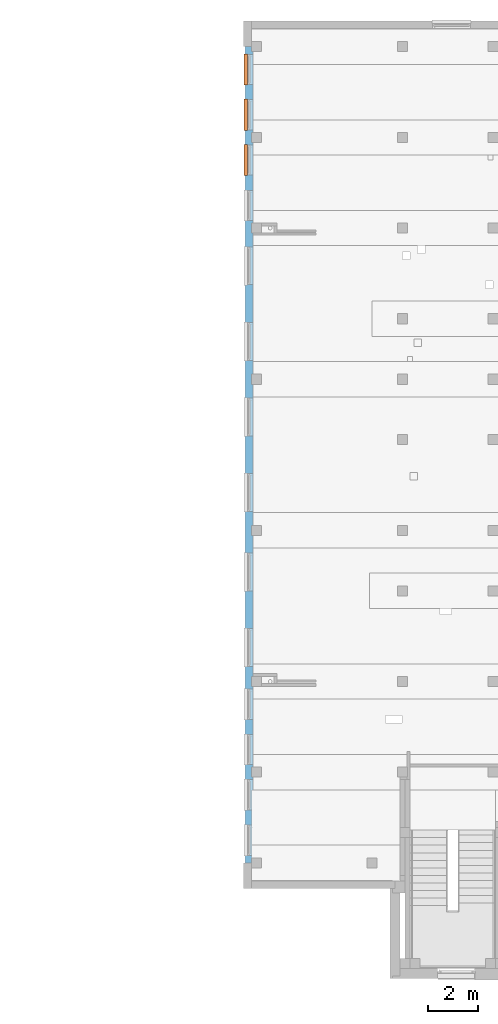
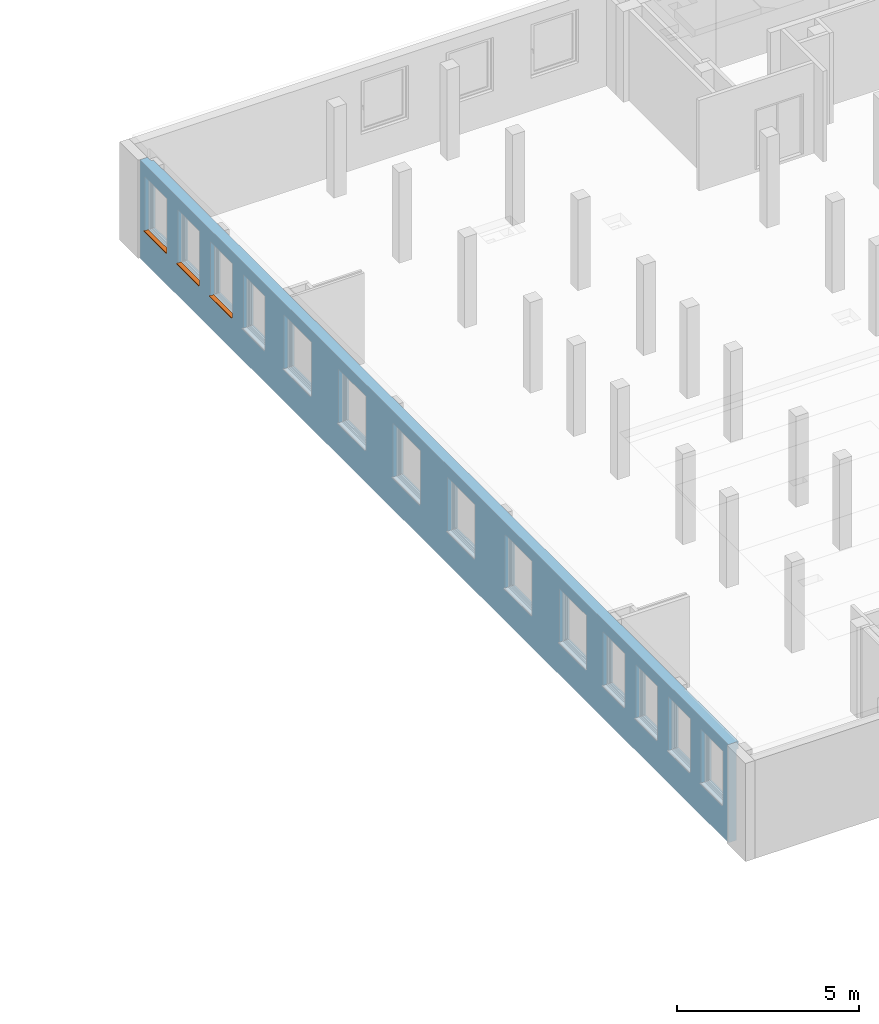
# One storey, part 23 of 27: 3 proxies, 14 openings, plus 1 element that does not belong to this part.
"""IFC4 building model written with IfcOpenShell, lengths in metres."""

from ifc_helpers import new_model, entity, si_unit, converted_unit, derived_unit, frame, origin, origin_with_axes, place, context, subcontext, project, spatial, polyline, outline, extrude, clip, bounded_halfspace, faceted_brep, source, transform, mapped, material, layer, layer_set, layer_usage, element, fill, save


model = new_model("IFC4")

# Units and contexts
model_context = context("Model", 3, precision=1e-05, world=origin())
body_context = subcontext(model_context, "Body", "Model", "MODEL_VIEW")
ifc_project = project(units=[si_unit("LENGTHUNIT", "METRE"), si_unit("AREAUNIT", "SQUARE_METRE"), si_unit("VOLUMEUNIT", "CUBIC_METRE"), si_unit("MASSUNIT", "GRAM", prefix="KILO"), converted_unit("PLANEANGLEUNIT", "DEGREE", entity("IfcPlaneAngleMeasure", 0.0174532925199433), si_unit("PLANEANGLEUNIT", "RADIAN"), dimensions=[0, 0, 0, 0, 0, 0, 0]), derived_unit("THERMALTRANSMITTANCEUNIT", [(si_unit("POWERUNIT", "WATT"), 1), (si_unit("THERMODYNAMICTEMPERATUREUNIT", "KELVIN"), -1), (si_unit("LENGTHUNIT", "METRE"), -2)]), derived_unit("VOLUMETRICFLOWRATEUNIT", [(si_unit("LENGTHUNIT", "METRE"), 3), (converted_unit("TIMEUNIT", "hour", entity("IfcTimeMeasure", 3600.0), si_unit("TIMEUNIT", "SECOND"), dimensions=[0, 0, 1, 0, 0, 0, 0]), -1), (si_unit("LENGTHUNIT", "METRE"), -1)])], contexts=[model_context])

# Site, building, storey
site_placement = place(None, origin())
site = spatial("IfcSite", under=ifc_project, at=site_placement, Name="3. ASŘ", CompositionType="ELEMENT")
building_placement = place(site_placement, origin())
building = spatial("IfcBuilding", under=site, at=building_placement, Name="Pavilon C", CompositionType="ELEMENT")
storey_placement = place(building_placement, frame((0.0, 0.0, 10.5)))
storey = spatial("IfcBuildingStorey", under=building, at=storey_placement, Name="Půdorys 4.NP", CompositionType="ELEMENT", Elevation=10.5)

# Wall, openings, proxies
ifc_material_1 = material(Name="ZELEZOBETONOVÁ KCE")
ifc_layer = layer(ifc_material_1, 0.32)
ifc_layer_set = layer_set([ifc_layer])
ifc_layer_usage = layer_usage(ifc_layer_set, "AXIS2", "POSITIVE", 0.0)
wall_placement = place(storey_placement, frame((24.5, 32.4, -0.1), z_axis=(0.0, 0.0, 1.0), x_axis=(-2.24566593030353e-16, -1.0, 0.0)))
wall = element("IfcWall", 1, at=wall_placement, inside=storey, material=ifc_layer_usage, Name="ZELEZOBETONOVÁ KCE", context=body_context, shape_type="Clipping", body=[
    clip(clip(clip(clip(clip(clip(clip(extrude(outline(polyline([(-32.4, 0.0), (-7.18613097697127e-17, -1.61376495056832e-32), (-7.18613097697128e-17, 0.32), (-32.2, 0.32), (-32.2, 0.25), (-32.4, 0.25), (-32.4, 0.0)])), frame((32.4, 0.0, 0.0), z_axis=(0.0, 0.0, 1.0), x_axis=(1.0, 0.0, 0.0)), (0.0, 0.0, 1.0), 3.3), bounded_halfspace(frame((13.2, 0.284999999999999, 3.05), z_axis=(0.0, 0.0, 1.0), x_axis=(2.24566593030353e-16, -1.0, 0.0)), True, origin_with_axes(), polyline([(13.0, 0.319999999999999), (13.0, 0.250000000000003), (13.4, 0.250000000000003), (13.4, 0.319999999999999), (13.0, 0.319999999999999)]))), bounded_halfspace(frame((25.2, 0.284999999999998, 3.05), z_axis=(0.0, 0.0, 1.0), x_axis=(2.24566593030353e-16, -1.0, 0.0)), True, origin_with_axes(), polyline([(25.0, 0.319999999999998), (25.0, 0.249999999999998), (25.4, 0.249999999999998), (25.4, 0.319999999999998), (25.0, 0.319999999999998)]))), bounded_halfspace(frame((28.8, 0.284999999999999, 3.05), z_axis=(0.0, 0.0, 1.0), x_axis=(2.24566593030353e-16, -1.0, 0.0)), True, origin_with_axes(), polyline([(28.6, 0.319999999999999), (28.6, 0.249999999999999), (29.0, 0.249999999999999), (29.0, 0.319999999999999), (28.6, 0.319999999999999)]))), bounded_halfspace(frame((19.2, 0.285000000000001, 3.05), z_axis=(0.0, 0.0, 1.0), x_axis=(2.24566593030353e-16, -1.0, 0.0)), True, origin_with_axes(), polyline([(19.0, 0.320000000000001), (19.0, 0.249999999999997), (19.4, 0.249999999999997), (19.4, 0.320000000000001), (19.0, 0.320000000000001)]))), bounded_halfspace(frame((7.2, 0.285000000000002, 3.05), z_axis=(0.0, 0.0, 1.0), x_axis=(2.24566593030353e-16, -1.0, 0.0)), True, origin_with_axes(), polyline([(7.0, 0.320000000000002), (7.0, 0.250000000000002), (7.4, 0.250000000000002), (7.4, 0.320000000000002), (7.0, 0.320000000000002)]))), bounded_halfspace(frame((32.3, 0.285, 3.05), z_axis=(0.0, 0.0, 1.0), x_axis=(2.24566593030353e-16, -1.0, 0.0)), True, origin_with_axes(), polyline([(32.2, 0.32), (32.2, 0.25), (32.4, 0.25), (32.4, 0.32), (32.2, 0.32)]))), bounded_halfspace(frame((3.6, 0.284999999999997, 3.05), z_axis=(0.0, 0.0, 1.0), x_axis=(2.24566593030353e-16, -1.0, 0.0)), True, origin_with_axes(), polyline([(3.4, 0.320000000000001), (3.4, 0.249999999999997), (3.8, 0.249999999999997), (3.8, 0.320000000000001), (3.4, 0.320000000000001)]))),
])
opening_1_placement = place(wall_placement, frame((30.9, -3.36849889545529e-16, 1.1), z_axis=(0.0, 1.0, 0.0), x_axis=(0.0, 0.0, 1.0)))
element("IfcOpeningElement", 2, at=opening_1_placement, cuts=wall, Name="Okenní otvor", ObjectType="Opening", context=body_context, shape_type="SweptSolid", body=[
    extrude(outline(polyline([(0.0, 1.2), (1.8, 1.2), (1.8, 0.0), (0.0, 0.0), (0.0, 1.2)])), origin_with_axes(), (0.0, 0.0, 1.0), 0.32),
])
opening_2_placement = place(wall_placement, frame((29.1, -7.41069757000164e-16, 1.1), z_axis=(0.0, 1.0, 0.0), x_axis=(0.0, 0.0, 1.0)))
element("IfcOpeningElement", 3, at=opening_2_placement, cuts=wall, Name="Okenní otvor", ObjectType="Opening", context=body_context, shape_type="SweptSolid", body=[
    extrude(outline(polyline([(0.0, 1.2), (1.8, 1.2), (1.8, 0.0), (0.0, 0.0), (0.0, 1.2)])), origin_with_axes(), (0.0, 0.0, 1.0), 0.32),
])
opening_3_placement = place(wall_placement, frame((27.3, -1.1452896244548e-15, 1.1), z_axis=(0.0, 1.0, 0.0), x_axis=(0.0, 0.0, 1.0)))
element("IfcOpeningElement", 4, at=opening_3_placement, cuts=wall, Name="Okenní otvor", ObjectType="Opening", context=body_context, shape_type="SweptSolid", body=[
    extrude(outline(polyline([(0.0, 1.2), (1.8, 1.2), (1.8, 0.0), (0.0, 0.0), (0.0, 1.2)])), origin_with_axes(), (0.0, 0.0, 1.0), 0.32),
])
opening_4_placement = place(wall_placement, frame((25.5, -1.54950949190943e-15, 1.1), z_axis=(0.0, 1.0, 0.0), x_axis=(0.0, 0.0, 1.0)))
element("IfcOpeningElement", 5, at=opening_4_placement, cuts=wall, Name="Okenní otvor", ObjectType="Opening", context=body_context, shape_type="SweptSolid", body=[
    extrude(outline(polyline([(0.0, 1.2), (1.8, 1.2), (1.8, 0.0), (0.0, 0.0), (0.0, 1.2)])), origin_with_axes(), (0.0, 0.0, 1.0), 0.32),
])
opening_5_placement = place(wall_placement, frame((23.1, -2.08846931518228e-15, 1.1), z_axis=(0.0, 1.0, 0.0), x_axis=(0.0, 0.0, 1.0)))
element("IfcOpeningElement", 6, at=opening_5_placement, cuts=wall, Name="Okenní otvor", ObjectType="Opening", context=body_context, shape_type="SweptSolid", body=[
    extrude(outline(polyline([(0.0, 1.5), (1.8, 1.5), (1.8, 0.0), (0.0, 0.0), (0.0, 1.5)])), origin_with_axes(), (0.0, 0.0, 1.0), 0.320000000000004),
])
opening_6_placement = place(wall_placement, frame((20.1, 8.75809712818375e-16, 1.1), z_axis=(0.0, 1.0, 0.0), x_axis=(0.0, 0.0, 1.0)))
element("IfcOpeningElement", 7, at=opening_6_placement, cuts=wall, Name="Okenní otvor", ObjectType="Opening", context=body_context, shape_type="SweptSolid", body=[
    extrude(outline(polyline([(0.0, 1.5), (1.8, 1.5), (1.8, 0.0), (0.0, 0.0), (0.0, 1.5)])), origin_with_axes(), (0.0, 0.0, 1.0), 0.32),
])
opening_7_placement = place(wall_placement, frame((16.95, 1.68424944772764e-16, 1.1), z_axis=(0.0, 1.0, 0.0), x_axis=(0.0, 0.0, 1.0)))
element("IfcOpeningElement", 8, at=opening_7_placement, cuts=wall, Name="Okenní otvor", ObjectType="Opening", context=body_context, shape_type="SweptSolid", body=[
    extrude(outline(polyline([(0.0, 1.5), (1.8, 1.5), (1.8, 0.0), (0.0, 0.0), (0.0, 1.5)])), origin_with_axes(), (0.0, 0.0, 1.0), 0.32),
])
opening_8_placement = place(wall_placement, frame((13.95, -5.05274834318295e-16, 1.1), z_axis=(0.0, 1.0, 0.0), x_axis=(0.0, 0.0, 1.0)))
element("IfcOpeningElement", 9, at=opening_8_placement, cuts=wall, Name="Okenní otvor", ObjectType="Opening", context=body_context, shape_type="SweptSolid", body=[
    extrude(outline(polyline([(0.0, 1.5), (1.8, 1.5), (1.8, 0.0), (0.0, 0.0), (0.0, 1.5)])), origin_with_axes(), (0.0, 0.0, 1.0), 0.32),
])
opening_9_placement = place(wall_placement, frame((10.95, -1.17897461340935e-15, 1.1), z_axis=(0.0, 1.0, 0.0), x_axis=(0.0, 0.0, 1.0)))
element("IfcOpeningElement", 10, at=opening_9_placement, cuts=wall, Name="Okenní otvor", ObjectType="Opening", context=body_context, shape_type="SweptSolid", body=[
    extrude(outline(polyline([(0.0, 1.5), (1.8, 1.5), (1.8, 0.0), (0.0, 0.0), (0.0, 1.5)])), origin_with_axes(), (0.0, 0.0, 1.0), 0.32),
])
opening_10_placement = place(wall_placement, frame((7.95, -1.85267439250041e-15, 1.1), z_axis=(0.0, 1.0, 0.0), x_axis=(0.0, 0.0, 1.0)))
element("IfcOpeningElement", 11, at=opening_10_placement, cuts=wall, Name="Okenní otvor", ObjectType="Opening", context=body_context, shape_type="SweptSolid", body=[
    extrude(outline(polyline([(0.0, 1.5), (1.8, 1.5), (1.8, 0.0), (0.0, 0.0), (0.0, 1.5)])), origin_with_axes(), (0.0, 0.0, 1.0), 0.320000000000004),
])
opening_11_placement = place(wall_placement, frame((5.7, 1.28002958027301e-15, 1.1), z_axis=(0.0, 1.0, 0.0), x_axis=(0.0, 0.0, 1.0)))
element("IfcOpeningElement", 12, at=opening_11_placement, cuts=wall, Name="Okenní otvor", ObjectType="Opening", context=body_context, shape_type="SweptSolid", body=[
    extrude(outline(polyline([(0.0, 1.2), (1.8, 1.2), (1.8, 0.0), (0.0, 0.0), (0.0, 1.2)])), origin_with_axes(), (0.0, 0.0, 1.0), 0.32),
])
opening_12_placement = place(wall_placement, frame((3.90000000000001, 8.75809712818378e-16, 1.1), z_axis=(0.0, 1.0, 0.0), x_axis=(0.0, 0.0, 1.0)))
opening_12 = element("IfcOpeningElement", 13, at=opening_12_placement, cuts=wall, Name="Okenní otvor", ObjectType="Opening", context=body_context, shape_type="SweptSolid", body=[
    extrude(outline(polyline([(0.0, 1.2), (1.8, 1.2), (1.8, 0.0), (0.0, 0.0), (0.0, 1.2)])), origin_with_axes(), (0.0, 0.0, 1.0), 0.32),
])
opening_13_placement = place(wall_placement, frame((2.10000000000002, 4.71589845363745e-16, 1.1), z_axis=(0.0, 1.0, 0.0), x_axis=(0.0, 0.0, 1.0)))
opening_13 = element("IfcOpeningElement", 14, at=opening_13_placement, cuts=wall, Name="Okenní otvor", ObjectType="Opening", context=body_context, shape_type="SweptSolid", body=[
    extrude(outline(polyline([(0.0, 1.2), (1.8, 1.2), (1.8, 0.0), (0.0, 0.0), (0.0, 1.2)])), origin_with_axes(), (0.0, 0.0, 1.0), 0.32),
])
opening_14_placement = place(wall_placement, frame((0.300000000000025, 6.73699779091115e-17, 1.1), z_axis=(-1.77635683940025e-16, 1.0, 0.0), x_axis=(0.0, 0.0, 1.0)))
opening_14 = element("IfcOpeningElement", 15, at=opening_14_placement, cuts=wall, Name="Okenní otvor", ObjectType="Opening", context=body_context, shape_type="SweptSolid", body=[
    extrude(outline(polyline([(0.0, 1.2), (1.8, 1.2), (1.8, 0.0), (0.0, 0.0), (0.0, 1.2)])), origin_with_axes(), (0.0, 0.0, 1.0), 0.32),
])
ifc_material_2 = material(Name="PLECH")
shared_shape_1 = source(origin_with_axes(), body_context, "Body", "Brep", [
    faceted_brep([(7.27595761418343e-15, -7.27595761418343e-15, 0.0), (7.27595761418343e-15, 0.0999999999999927, 0.0), (7.27595761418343e-15, 0.0999999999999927, 0.005), (7.27595761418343e-15, -7.27595761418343e-15, 0.005), (1.20000000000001, -7.27595761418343e-15, 0.0), (1.20000000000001, -7.27595761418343e-15, 0.005), (1.20000000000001, 0.0999999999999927, 0.005), (1.20000000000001, 0.0999999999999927, 0.0), (-0.0199999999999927, -7.27595761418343e-15, 0.0), (-0.0199999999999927, -0.0350000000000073, 0.0), (1.22000000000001, -0.0350000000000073, 0.0), (1.22000000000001, -7.27595761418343e-15, 0.0), (1.22000000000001, -7.27595761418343e-15, 0.005), (1.22000000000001, -0.0400000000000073, 0.005), (-0.0199999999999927, -0.0400000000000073, 0.005), (-0.0199999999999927, -7.27595761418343e-15, 0.005), (-0.0199999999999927, -0.0400000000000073, -0.025), (-0.0199999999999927, -0.0350000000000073, -0.025), (1.22000000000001, -0.0350000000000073, -0.025), (1.22000000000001, -0.0400000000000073, -0.025)], [[[0, 1, 2, 3]], [[4, 5, 6, 7]], [[1, 0, 8, 9, 10, 11, 4, 7]], [[2, 1, 7, 6]], [[3, 2, 6, 5, 12, 13, 14, 15]], [[8, 15, 14, 16, 17, 9]], [[11, 10, 18, 19, 13, 12]], [[15, 8, 0, 3]], [[5, 4, 11, 12]], [[16, 14, 13, 19]], [[17, 16, 19, 18]], [[9, 17, 18, 10]]], orient=[[False], [False], [False], [False], [False], [False], [False], [False], [False], [False], [False], [False]]),
    faceted_brep([(-0.0199999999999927, -7.27595761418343e-15, 0.0), (-0.0199999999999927, 0.0999999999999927, 0.0), (-0.0199999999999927, 0.0999999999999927, 0.005), (-0.0199999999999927, -7.27595761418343e-15, 0.005), (7.27595761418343e-15, -7.27595761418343e-15, 0.0), (7.27595761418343e-15, -7.27595761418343e-15, 0.005), (7.27595761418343e-15, 0.0999999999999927, 0.005), (7.27595761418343e-15, 0.0999999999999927, 0.0)], [[[0, 1, 2, 3]], [[4, 5, 6, 7]], [[1, 0, 4, 7]], [[2, 1, 7, 6]], [[3, 2, 6, 5]], [[0, 3, 5, 4]]], orient=[[False], [False], [False], [False], [False], [False]]),
    faceted_brep([(1.20000000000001, -7.27595761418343e-15, 0.0), (1.20000000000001, 0.0999999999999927, 0.0), (1.20000000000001, 0.0999999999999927, 0.005), (1.20000000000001, -7.27595761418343e-15, 0.005), (1.22000000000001, -7.27595761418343e-15, 0.0), (1.22000000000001, -7.27595761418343e-15, 0.005), (1.22000000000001, 0.0999999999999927, 0.005), (1.22000000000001, 0.0999999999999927, 0.0)], [[[0, 1, 2, 3]], [[4, 5, 6, 7]], [[1, 0, 4, 7]], [[2, 1, 7, 6]], [[3, 2, 6, 5]], [[0, 3, 5, 4]]], orient=[[False], [False], [False], [False], [False], [False]]),
])
proxy_1_placement = place(opening_12_placement, frame((0.0, 0.0, 0.0), z_axis=(1.0, 0.0, 0.0), x_axis=(0.0, 1.0, 0.0)))
proxy_1 = element("IfcBuildingElementProxy", 16, at=proxy_1_placement, inside=storey, material=ifc_material_2, Name="Parapet vnější", context=body_context, shape_type="MappedRepresentation", body=[
    mapped(shared_shape_1, transform((0.0, 0.0, 0.0), x_axis=(1.0, 0.0, 0.0), y_axis=(0.0, 1.0, 0.0), z_axis=(0.0, 0.0, 1.0), scale=1.0)),
])
fill(opening_12, proxy_1)
ifc_material_3 = material(Name="PLECH")
shared_shape_2 = source(origin_with_axes(), body_context, "Body", "Brep", [
    faceted_brep([(7.27595761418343e-15, -7.27595761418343e-15, 0.0), (7.27595761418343e-15, 0.0999999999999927, 0.0), (7.27595761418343e-15, 0.0999999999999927, 0.005), (7.27595761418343e-15, -7.27595761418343e-15, 0.005), (1.20000000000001, -7.27595761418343e-15, 0.0), (1.20000000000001, -7.27595761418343e-15, 0.005), (1.20000000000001, 0.0999999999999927, 0.005), (1.20000000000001, 0.0999999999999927, 0.0), (-0.0199999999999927, -7.27595761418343e-15, 0.0), (-0.0199999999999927, -0.0350000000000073, 0.0), (1.22000000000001, -0.0350000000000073, 0.0), (1.22000000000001, -7.27595761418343e-15, 0.0), (1.22000000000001, -7.27595761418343e-15, 0.005), (1.22000000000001, -0.0400000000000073, 0.005), (-0.0199999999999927, -0.0400000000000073, 0.005), (-0.0199999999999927, -7.27595761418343e-15, 0.005), (-0.0199999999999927, -0.0400000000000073, -0.025), (-0.0199999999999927, -0.0350000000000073, -0.025), (1.22000000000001, -0.0350000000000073, -0.025), (1.22000000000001, -0.0400000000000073, -0.025)], [[[0, 1, 2, 3]], [[4, 5, 6, 7]], [[1, 0, 8, 9, 10, 11, 4, 7]], [[2, 1, 7, 6]], [[3, 2, 6, 5, 12, 13, 14, 15]], [[8, 15, 14, 16, 17, 9]], [[11, 10, 18, 19, 13, 12]], [[15, 8, 0, 3]], [[5, 4, 11, 12]], [[16, 14, 13, 19]], [[17, 16, 19, 18]], [[9, 17, 18, 10]]], orient=[[False], [False], [False], [False], [False], [False], [False], [False], [False], [False], [False], [False]]),
    faceted_brep([(-0.0199999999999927, -7.27595761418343e-15, 0.0), (-0.0199999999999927, 0.0999999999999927, 0.0), (-0.0199999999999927, 0.0999999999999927, 0.005), (-0.0199999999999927, -7.27595761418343e-15, 0.005), (7.27595761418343e-15, -7.27595761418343e-15, 0.0), (7.27595761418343e-15, -7.27595761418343e-15, 0.005), (7.27595761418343e-15, 0.0999999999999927, 0.005), (7.27595761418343e-15, 0.0999999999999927, 0.0)], [[[0, 1, 2, 3]], [[4, 5, 6, 7]], [[1, 0, 4, 7]], [[2, 1, 7, 6]], [[3, 2, 6, 5]], [[0, 3, 5, 4]]], orient=[[False], [False], [False], [False], [False], [False]]),
    faceted_brep([(1.20000000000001, -7.27595761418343e-15, 0.0), (1.20000000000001, 0.0999999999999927, 0.0), (1.20000000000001, 0.0999999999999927, 0.005), (1.20000000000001, -7.27595761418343e-15, 0.005), (1.22000000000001, -7.27595761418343e-15, 0.0), (1.22000000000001, -7.27595761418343e-15, 0.005), (1.22000000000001, 0.0999999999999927, 0.005), (1.22000000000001, 0.0999999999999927, 0.0)], [[[0, 1, 2, 3]], [[4, 5, 6, 7]], [[1, 0, 4, 7]], [[2, 1, 7, 6]], [[3, 2, 6, 5]], [[0, 3, 5, 4]]], orient=[[False], [False], [False], [False], [False], [False]]),
])
proxy_2_placement = place(opening_13_placement, frame((0.0, 0.0, 0.0), z_axis=(1.0, 0.0, 0.0), x_axis=(0.0, 1.0, 0.0)))
proxy_2 = element("IfcBuildingElementProxy", 17, at=proxy_2_placement, inside=storey, material=ifc_material_3, Name="Parapet vnější", context=body_context, shape_type="MappedRepresentation", body=[
    mapped(shared_shape_2, transform((0.0, 0.0, 0.0), x_axis=(1.0, 0.0, 0.0), y_axis=(0.0, 1.0, 0.0), z_axis=(0.0, 0.0, 1.0), scale=1.0)),
])
fill(opening_13, proxy_2)
ifc_material_4 = material(Name="PLECH")
shared_shape_3 = source(origin_with_axes(), body_context, "Body", "Brep", [
    faceted_brep([(7.27595761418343e-15, -7.27595761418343e-15, 0.0), (7.27595761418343e-15, 0.0999999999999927, 0.0), (7.27595761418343e-15, 0.0999999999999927, 0.005), (7.27595761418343e-15, -7.27595761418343e-15, 0.005), (1.20000000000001, -7.27595761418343e-15, 0.0), (1.20000000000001, -7.27595761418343e-15, 0.005), (1.20000000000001, 0.0999999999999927, 0.005), (1.20000000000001, 0.0999999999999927, 0.0), (-0.0199999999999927, -7.27595761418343e-15, 0.0), (-0.0199999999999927, -0.0350000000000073, 0.0), (1.22000000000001, -0.0350000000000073, 0.0), (1.22000000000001, -7.27595761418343e-15, 0.0), (1.22000000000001, -7.27595761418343e-15, 0.005), (1.22000000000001, -0.0400000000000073, 0.005), (-0.0199999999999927, -0.0400000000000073, 0.005), (-0.0199999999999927, -7.27595761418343e-15, 0.005), (-0.0199999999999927, -0.0400000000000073, -0.025), (-0.0199999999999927, -0.0350000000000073, -0.025), (1.22000000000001, -0.0350000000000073, -0.025), (1.22000000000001, -0.0400000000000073, -0.025)], [[[0, 1, 2, 3]], [[4, 5, 6, 7]], [[1, 0, 8, 9, 10, 11, 4, 7]], [[2, 1, 7, 6]], [[3, 2, 6, 5, 12, 13, 14, 15]], [[8, 15, 14, 16, 17, 9]], [[11, 10, 18, 19, 13, 12]], [[15, 8, 0, 3]], [[5, 4, 11, 12]], [[16, 14, 13, 19]], [[17, 16, 19, 18]], [[9, 17, 18, 10]]], orient=[[False], [False], [False], [False], [False], [False], [False], [False], [False], [False], [False], [False]]),
    faceted_brep([(-0.0199999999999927, -7.27595761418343e-15, 0.0), (-0.0199999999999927, 0.0999999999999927, 0.0), (-0.0199999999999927, 0.0999999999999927, 0.005), (-0.0199999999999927, -7.27595761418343e-15, 0.005), (7.27595761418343e-15, -7.27595761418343e-15, 0.0), (7.27595761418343e-15, -7.27595761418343e-15, 0.005), (7.27595761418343e-15, 0.0999999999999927, 0.005), (7.27595761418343e-15, 0.0999999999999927, 0.0)], [[[0, 1, 2, 3]], [[4, 5, 6, 7]], [[1, 0, 4, 7]], [[2, 1, 7, 6]], [[3, 2, 6, 5]], [[0, 3, 5, 4]]], orient=[[False], [False], [False], [False], [False], [False]]),
    faceted_brep([(1.20000000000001, -7.27595761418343e-15, 0.0), (1.20000000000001, 0.0999999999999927, 0.0), (1.20000000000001, 0.0999999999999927, 0.005), (1.20000000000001, -7.27595761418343e-15, 0.005), (1.22000000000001, -7.27595761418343e-15, 0.0), (1.22000000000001, -7.27595761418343e-15, 0.005), (1.22000000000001, 0.0999999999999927, 0.005), (1.22000000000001, 0.0999999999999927, 0.0)], [[[0, 1, 2, 3]], [[4, 5, 6, 7]], [[1, 0, 4, 7]], [[2, 1, 7, 6]], [[3, 2, 6, 5]], [[0, 3, 5, 4]]], orient=[[False], [False], [False], [False], [False], [False]]),
])
proxy_3_placement = place(opening_14_placement, frame((0.0, 0.0, 0.0), z_axis=(1.0, 0.0, 0.0), x_axis=(0.0, 1.0, 0.0)))
proxy_3 = element("IfcBuildingElementProxy", 18, at=proxy_3_placement, inside=storey, material=ifc_material_4, Name="Parapet vnější", context=body_context, shape_type="MappedRepresentation", body=[
    mapped(shared_shape_3, transform((0.0, 0.0, 0.0), x_axis=(1.0, 0.0, 0.0), y_axis=(0.0, 1.0, 0.0), z_axis=(0.0, 0.0, 1.0), scale=1.0)),
])
fill(opening_14, proxy_3)

save(model, "model.ifc")
